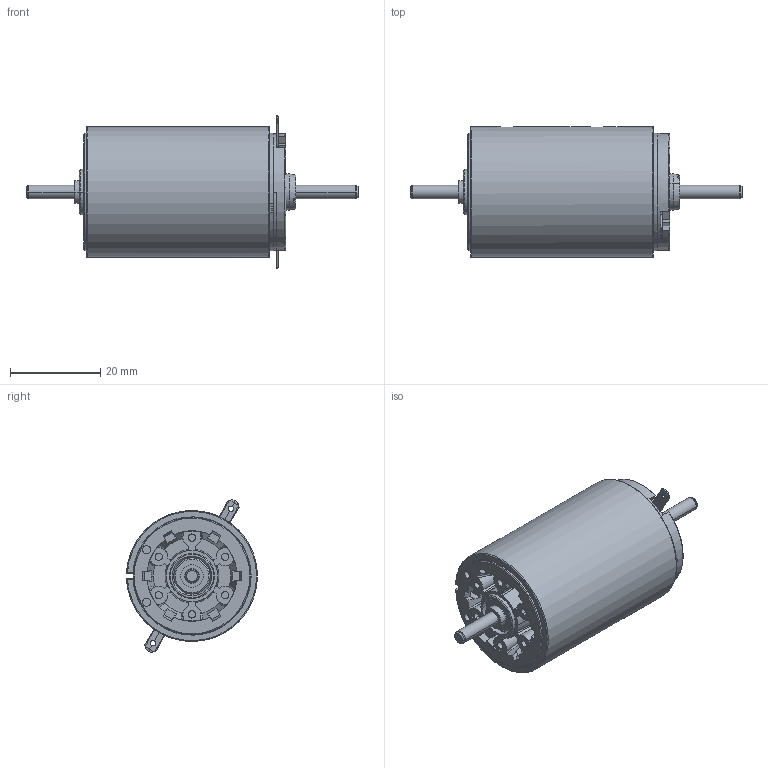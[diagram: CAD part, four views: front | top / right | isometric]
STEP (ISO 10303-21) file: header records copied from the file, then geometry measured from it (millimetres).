
FILE_DESCRIPTION((''),'2;1');
FILE_NAME('226765_REMAX29_9W_2WE','2016-11-08T',('mmagpetk'),(''),'CREO PARAMETRIC BY PTC INC, 2016050','CREO PARAMETRIC BY PTC INC, 2016050','');
FILE_SCHEMA(('CONFIG_CONTROL_DESIGN'));
Length unit declared in the file: millimetre
Products named in the file (1): 226765_REMAX29_9W_2WE
Bounding box: 73.5 x 28.99 x 33.86 mm (x, y, z)
Volume: 28363.2 mm3; surface area: 7429.2 mm2
Topology: 1 solids, 1 shells, 441 faces, 1196 edges, 754 vertices
Faces by surface type: plane 245, cylinder 134, cone 28, bspline 24, torus 10
Entity records: 23230 total; most frequent: CARTESIAN_POINT 5160, ORIENTED_EDGE 2392, DIRECTION 2127, PRESENTATION_STYLE_ASSIGNMENT 1638, STYLED_ITEM 1197, CURVE_STYLE 1196, EDGE_CURVE 1196, VERTEX_POINT 754
